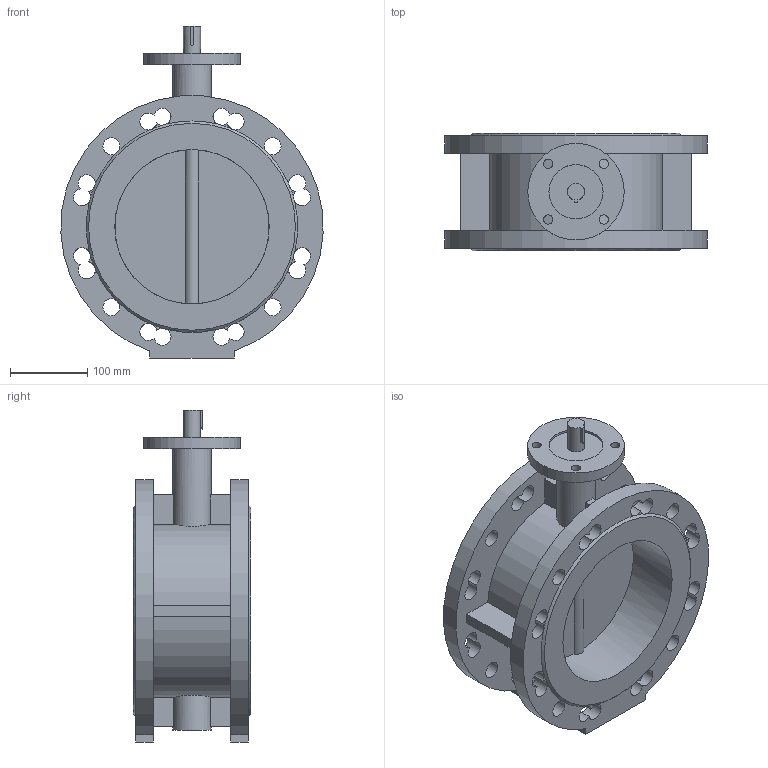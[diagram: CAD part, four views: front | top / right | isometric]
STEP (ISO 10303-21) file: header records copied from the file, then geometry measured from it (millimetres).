
FILE_DESCRIPTION(('STEP AP203'), '1');
FILE_NAME('Çàòâîð 021F.Y DN200 PN10_16 ïîä ÝÏ', '', ('UNSPECIFIED'), ('UNSPECIFIED'), 'ASCON STEP Converter 1.6', 'ASCON Math Kernel', '');
FILE_SCHEMA(('CONFIG_CONTROL_DESIGN'));
Length unit declared in the file: millimetre
Bounding box: 339.6 x 152 x 430 mm (x, y, z)
Volume: 4320318.3 mm3; surface area: 594928.6 mm2
Topology: 1 solids, 1 shells, 132 faces, 411 edges, 266 vertices
Faces by surface type: plane 70, cylinder 60, cone 2
Full cylindrical faces by diameter (mm): 12 x4, 22 x8, 22.1 x1, 50 x2, 70 x1, 125 x1, 200 x2
Entity records: 7895 total; most frequent: CARTESIAN_POINT 2998, DIRECTION 839, ORIENTED_EDGE 780, EDGE_CURVE 390, AXIS2_PLACEMENT_3D 359, VERTEX_POINT 266, CIRCLE 226, EDGE_LOOP 194
